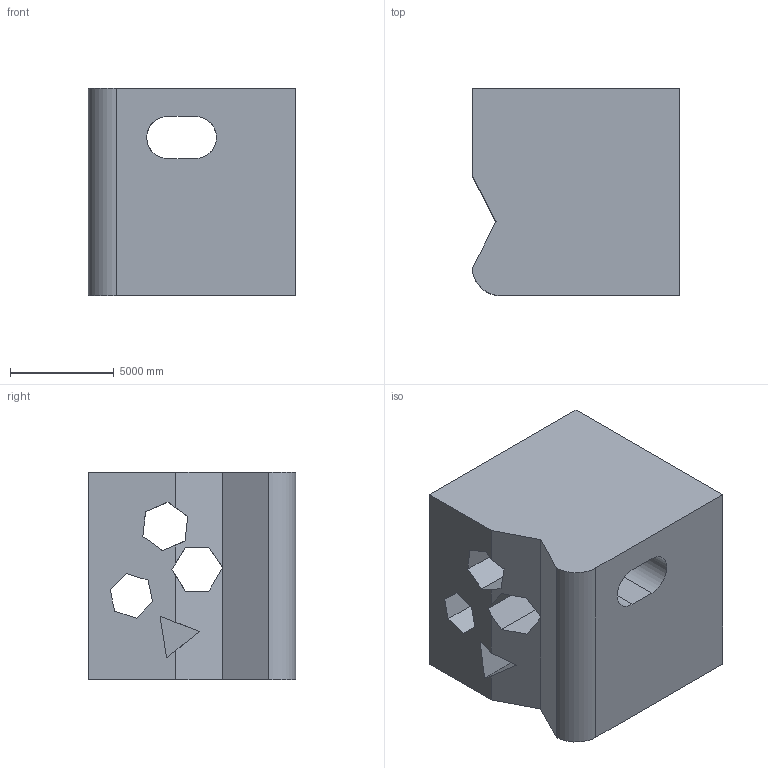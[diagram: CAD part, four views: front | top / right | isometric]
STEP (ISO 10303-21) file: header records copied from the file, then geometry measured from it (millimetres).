
FILE_DESCRIPTION (( 'STEP AP203' ), '1' );
FILE_NAME ('133.STEP', '2022-08-31T11:48:13', ( 'user' ), ( '' ), 'SwSTEP 2.0', 'SolidWorks 2021', '' );
FILE_SCHEMA (( 'CONFIG_CONTROL_DESIGN' ));
Length unit declared in the file: centimetre
Products named in the file (1): 133
Bounding box: 10000 x 10000 x 10000 mm (x, y, z)
Volume: 810700744267.7 mm3; surface area: 854215667.2 mm2
Topology: 1 solids, 1 shells, 41 faces, 129 edges, 86 vertices
Faces by surface type: plane 38, cylinder 3
Entity records: 1506 total; most frequent: CARTESIAN_POINT 293, ORIENTED_EDGE 258, DIRECTION 207, EDGE_CURVE 129, VECTOR 111, LINE 111, VERTEX_POINT 86, AXIS2_PLACEMENT_3D 48
